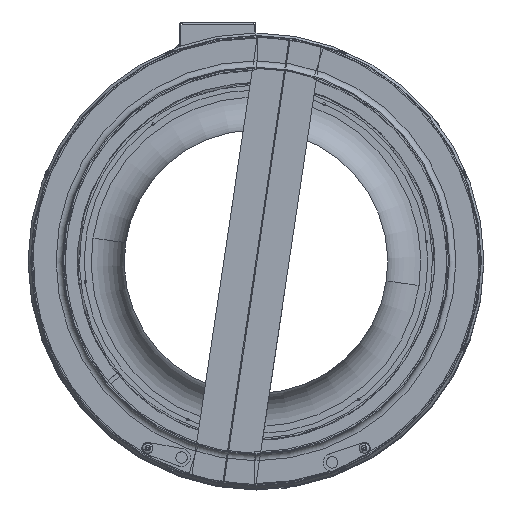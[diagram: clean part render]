
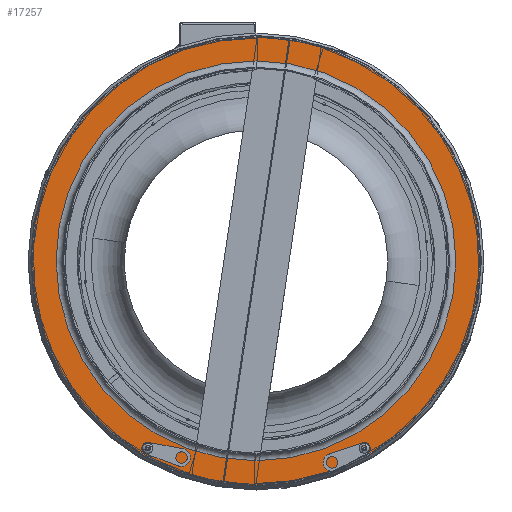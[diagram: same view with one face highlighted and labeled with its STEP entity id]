
A CAD part, top view. The second image highlights one B-rep face of the part: STEP entity #17257.
In plain terms, the highlighted planar face has unit normal (0, 0, 1).
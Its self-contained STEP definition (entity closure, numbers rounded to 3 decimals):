
#7 = ORIENTED_EDGE ( 'NONE', *, *, #17318, .T. ) ;
#311 = EDGE_LOOP ( 'NONE', ( #15986, #16430 ) ) ;
#1243 = VERTEX_POINT ( 'NONE', #17093 ) ;
#1473 = CIRCLE ( 'NONE', #15643, 2.1 ) ;
#1487 = AXIS2_PLACEMENT_3D ( 'NONE', #13311, #11889, #16216 ) ;
#1800 = CIRCLE ( 'NONE', #1487, 2.1 ) ;
#1873 = CIRCLE ( 'NONE', #15447, 157. ) ;
#1974 = CARTESIAN_POINT ( 'NONE',  ( 0., -157., 300. ) ) ;
#2130 = EDGE_CURVE ( 'NONE', #3775, #3187, #6710, .T. ) ;
#2160 = DIRECTION ( 'NONE',  ( 0., 1., 0. ) ) ;
#2205 = AXIS2_PLACEMENT_3D ( 'NONE', #12967, #10318, #7209 ) ;
#2516 = ORIENTED_EDGE ( 'NONE', *, *, #18284, .F. ) ;
#2852 = VERTEX_POINT ( 'NONE', #12883 ) ;
#2932 = EDGE_CURVE ( 'NONE', #1243, #10431, #18356, .T. ) ;
#3187 = VERTEX_POINT ( 'NONE', #10613 ) ;
#3382 = DIRECTION ( 'NONE',  ( 0., 0., -1. ) ) ;
#3395 = AXIS2_PLACEMENT_3D ( 'NONE', #7927, #3382, #16221 ) ;
#3496 = PLANE ( 'NONE',  #12148 ) ;
#3775 = VERTEX_POINT ( 'NONE', #7340 ) ;
#4407 = CIRCLE ( 'NONE', #16455, 175.75 ) ;
#4553 = FACE_OUTER_BOUND ( 'NONE', #5374, .T. ) ;
#4908 = AXIS2_PLACEMENT_3D ( 'NONE', #17242, #14235, #5650 ) ;
#5374 = EDGE_LOOP ( 'NONE', ( #6833, #15195 ) ) ;
#5447 = DIRECTION ( 'NONE',  ( 0., 1., 0. ) ) ;
#5477 = EDGE_CURVE ( 'NONE', #6836, #7607, #1473, .T. ) ;
#5650 = DIRECTION ( 'NONE',  ( 0., 1., 0. ) ) ;
#5971 = FACE_BOUND ( 'NONE', #14355, .T. ) ;
#5982 = ORIENTED_EDGE ( 'NONE', *, *, #17710, .T. ) ;
#6710 = CIRCLE ( 'NONE', #4908, 175.75 ) ;
#6833 = ORIENTED_EDGE ( 'NONE', *, *, #14484, .F. ) ;
#6836 = VERTEX_POINT ( 'NONE', #7999 ) ;
#6977 = DIRECTION ( 'NONE',  ( 0., 0., 1. ) ) ;
#7209 = DIRECTION ( 'NONE',  ( 0., -1., 0. ) ) ;
#7340 = CARTESIAN_POINT ( 'NONE',  ( 0., -175.75, 300. ) ) ;
#7503 = DIRECTION ( 'NONE',  ( 0., -1., 0. ) ) ;
#7607 = VERTEX_POINT ( 'NONE', #18417 ) ;
#7680 = DIRECTION ( 'NONE',  ( 0., 0., -1. ) ) ;
#7718 = EDGE_LOOP ( 'NONE', ( #5982, #7 ) ) ;
#7822 = AXIS2_PLACEMENT_3D ( 'NONE', #13064, #10238, #7503 ) ;
#7927 = CARTESIAN_POINT ( 'NONE',  ( 0., 0., 300. ) ) ;
#7999 = CARTESIAN_POINT ( 'NONE',  ( -85., -149.324, 300. ) ) ;
#8619 = CARTESIAN_POINT ( 'NONE',  ( 0., 157., 300. ) ) ;
#9520 = CARTESIAN_POINT ( 'NONE',  ( 0., 0., 300. ) ) ;
#10238 = DIRECTION ( 'NONE',  ( 0., 0., 1. ) ) ;
#10318 = DIRECTION ( 'NONE',  ( 0., 0., 1. ) ) ;
#10323 = FACE_BOUND ( 'NONE', #7718, .T. ) ;
#10431 = VERTEX_POINT ( 'NONE', #14874 ) ;
#10613 = CARTESIAN_POINT ( 'NONE',  ( 0., 175.75, 300. ) ) ;
#10672 = ORIENTED_EDGE ( 'NONE', *, *, #5477, .F. ) ;
#10882 = DIRECTION ( 'NONE',  ( 0., 0., -1. ) ) ;
#10933 = EDGE_CURVE ( 'NONE', #10431, #1243, #1800, .T. ) ;
#11824 = VERTEX_POINT ( 'NONE', #8619 ) ;
#11889 = DIRECTION ( 'NONE',  ( 0., 0., 1. ) ) ;
#12148 = AXIS2_PLACEMENT_3D ( 'NONE', #1974, #7680, #2160 ) ;
#12883 = CARTESIAN_POINT ( 'NONE',  ( 0., -157., 300. ) ) ;
#12967 = CARTESIAN_POINT ( 'NONE',  ( -85., -147.224, 300. ) ) ;
#13064 = CARTESIAN_POINT ( 'NONE',  ( 85., -147.224, 300. ) ) ;
#13311 = CARTESIAN_POINT ( 'NONE',  ( 85., -147.224, 300. ) ) ;
#14235 = DIRECTION ( 'NONE',  ( 0., 0., -1. ) ) ;
#14254 = CIRCLE ( 'NONE', #3395, 157. ) ;
#14355 = EDGE_LOOP ( 'NONE', ( #10672, #2516 ) ) ;
#14484 = EDGE_CURVE ( 'NONE', #3187, #3775, #4407, .T. ) ;
#14874 = CARTESIAN_POINT ( 'NONE',  ( 85., -149.324, 300. ) ) ;
#15195 = ORIENTED_EDGE ( 'NONE', *, *, #2130, .F. ) ;
#15447 = AXIS2_PLACEMENT_3D ( 'NONE', #18040, #10882, #17852 ) ;
#15643 = AXIS2_PLACEMENT_3D ( 'NONE', #18296, #6977, #16864 ) ;
#15772 = CIRCLE ( 'NONE', #2205, 2.1 ) ;
#15986 = ORIENTED_EDGE ( 'NONE', *, *, #10933, .F. ) ;
#16216 = DIRECTION ( 'NONE',  ( 0., -1., 0. ) ) ;
#16221 = DIRECTION ( 'NONE',  ( 0., 1., 0. ) ) ;
#16430 = ORIENTED_EDGE ( 'NONE', *, *, #2932, .F. ) ;
#16455 = AXIS2_PLACEMENT_3D ( 'NONE', #9520, #16569, #5447 ) ;
#16569 = DIRECTION ( 'NONE',  ( 0., 0., -1. ) ) ;
#16864 = DIRECTION ( 'NONE',  ( 0., -1., 0. ) ) ;
#17093 = CARTESIAN_POINT ( 'NONE',  ( 85., -145.124, 300. ) ) ;
#17242 = CARTESIAN_POINT ( 'NONE',  ( 0., 0., 300. ) ) ;
#17257 = ADVANCED_FACE ( 'NONE', ( #5971, #17475, #4553, #10323 ), #3496, .F. ) ;
#17318 = EDGE_CURVE ( 'NONE', #2852, #11824, #1873, .T. ) ;
#17475 = FACE_BOUND ( 'NONE', #311, .T. ) ;
#17710 = EDGE_CURVE ( 'NONE', #11824, #2852, #14254, .T. ) ;
#17852 = DIRECTION ( 'NONE',  ( 0., 1., 0. ) ) ;
#18040 = CARTESIAN_POINT ( 'NONE',  ( 0., 0., 300. ) ) ;
#18284 = EDGE_CURVE ( 'NONE', #7607, #6836, #15772, .T. ) ;
#18296 = CARTESIAN_POINT ( 'NONE',  ( -85., -147.224, 300. ) ) ;
#18356 = CIRCLE ( 'NONE', #7822, 2.1 ) ;
#18417 = CARTESIAN_POINT ( 'NONE',  ( -85., -145.124, 300. ) ) ;
